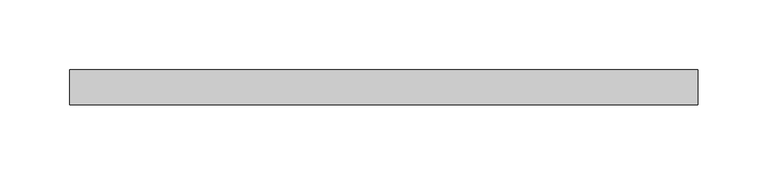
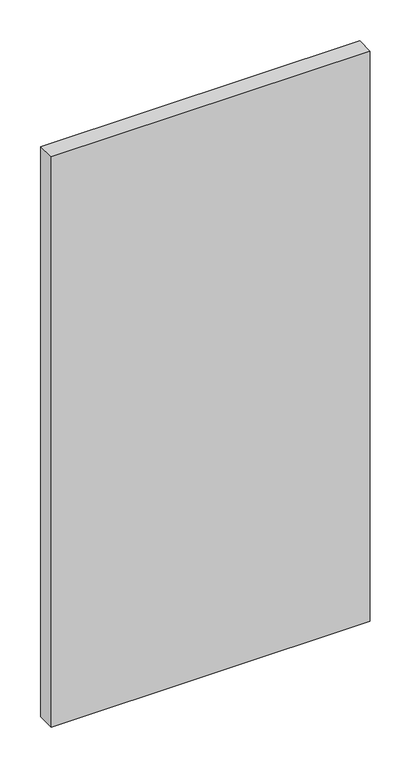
"""IFC4 building model written with IfcOpenShell, lengths in millimetres: plate geometry, Системная панель : ADSK_Cтеклопакет_25."""

from ifc_helpers import new_model, si_unit, origin, origin_with_axes, place, context, project, spatial, polyline, outline, extrude, source, transform, mapped, element, save


def plate_fea7ad9d(model_context):
    return source(origin(), model_context, "Body", "SweptSolid", [
        extrude(outline(polyline([(225.0, -12.5), (-225.0, -12.5), (-225.0, 12.5), (225.0, 12.5), (225.0, -12.5)])), origin_with_axes(), (0.0, 0.0, 1.0), 850.0),
    ])


if __name__ == "__main__":
    model = new_model("IFC4")
    model_context = context("Model", 3, world=origin())
    ifc_project = project(units=[si_unit("LENGTHUNIT", "METRE", prefix="MILLI")], contexts=[model_context])
    site = spatial("IfcSite", under=ifc_project)
    building = spatial("IfcBuilding", under=site)
    placement = place(None, origin())
    plate_shape = plate_fea7ad9d(model_context)
    element("IfcPlate", 1, ObjectType="Системная панель : ADSK_Cтеклопакет_25", at=placement, inside=building, context=model_context, shape_type="MappedRepresentation", body=[
        mapped(plate_shape, transform((0.0, 0.0, 0.0), x_axis=(1.0, 0.0, 0.0), y_axis=(0.0, 1.0, 0.0), z_axis=(0.0, 0.0, 1.0))),
    ])
    save(model, "model.ifc")
